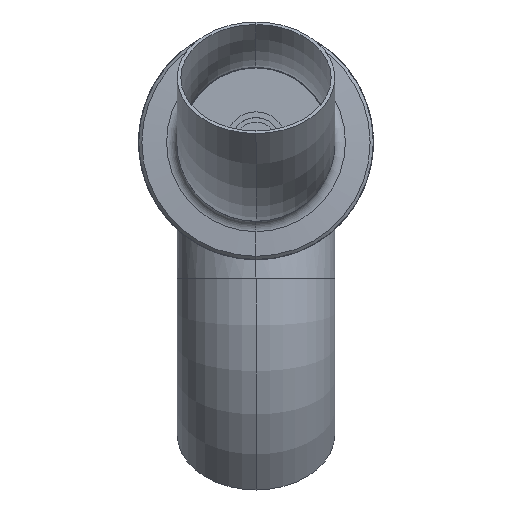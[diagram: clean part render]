
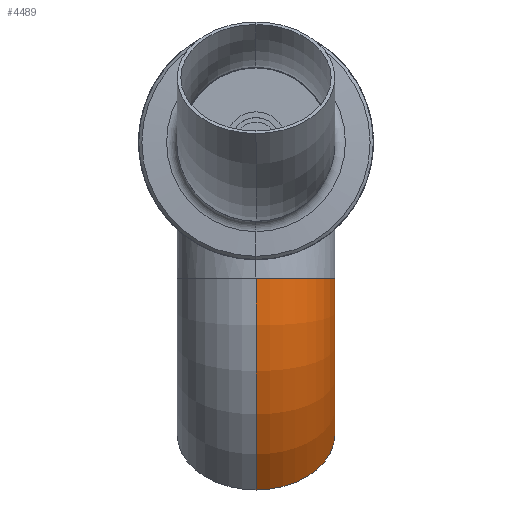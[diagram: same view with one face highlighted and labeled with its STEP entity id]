
A CAD part, front view. The second image highlights one B-rep face of the part: STEP entity #4489.
In plain terms, the highlighted toroidal (fillet/blend) face has major radius 381 mm and minor radius 136.5 mm.
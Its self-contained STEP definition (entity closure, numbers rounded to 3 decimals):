
#138 = VERTEX_POINT ( 'NONE', #19824 ) ;
#414 = CARTESIAN_POINT ( 'NONE',  ( 365.928, -15.072, 0. ) ) ;
#472 = CARTESIAN_POINT ( 'NONE',  ( 0., -136.5, 0. ) ) ;
#2559 = CIRCLE ( 'NONE', #2560, 136.5 ) ;
#2560 = AXIS2_PLACEMENT_3D ( 'NONE', #2561, #2562, #2563 ) ;
#2561 = CARTESIAN_POINT ( 'NONE',  ( 269.408, -111.592, 0. ) ) ;
#2562 = DIRECTION ( 'NONE',  ( 0.707, -0.707, 0. ) ) ;
#2563 = DIRECTION ( 'NONE',  ( 0., 0., -1. ) ) ;
#2882 = CIRCLE ( 'NONE', #2883, 136.5 ) ;
#2883 = AXIS2_PLACEMENT_3D ( 'NONE', #2884, #2885, #2886 ) ;
#2884 = CARTESIAN_POINT ( 'NONE',  ( 0., 0., 0. ) ) ;
#2885 = DIRECTION ( 'NONE',  ( 1., 0., 0. ) ) ;
#2886 = DIRECTION ( 'NONE',  ( 0., 0., -1. ) ) ;
#3351 = EDGE_CURVE ( 'NONE', #138, #10523, #2882, .T. ) ;
#19729 = ORIENTED_EDGE ( 'NONE', *, *, #7101, .T. ) ;
#3388 = ORIENTED_EDGE ( 'NONE', *, *, #3351, .T. ) ;
#19824 = CARTESIAN_POINT ( 'NONE',  ( 0., 136.5, 0. ) ) ;
#4489 = ADVANCED_FACE ( 'NONE', ( #6198 ), #6199, .T. ) ;
#5609 = EDGE_CURVE ( 'NONE', #14714, #10523, #9957, .T. ) ;
#6198 = FACE_OUTER_BOUND ( 'NONE', #15993, .T. ) ;
#6199 = TOROIDAL_SURFACE ( 'NONE', #6200, 381., 136.5 ) ;
#6200 = AXIS2_PLACEMENT_3D ( 'NONE', #6201, #6202, #6203 ) ;
#6201 = CARTESIAN_POINT ( 'NONE',  ( 0., -381., 0. ) ) ;
#6202 = DIRECTION ( 'NONE',  ( 0., 0., 1. ) ) ;
#6203 = DIRECTION ( 'NONE',  ( 1., 0., 0. ) ) ;
#7101 = EDGE_CURVE ( 'NONE', #10378, #138, #11758, .T. ) ;
#8919 = ORIENTED_EDGE ( 'NONE', *, *, #5609, .F. ) ;
#9588 = CARTESIAN_POINT ( 'NONE',  ( 172.888, -208.112, 0. ) ) ;
#9957 = CIRCLE ( 'NONE', #9958, 244.5 ) ;
#9958 = AXIS2_PLACEMENT_3D ( 'NONE', #9959, #9960, #9961 ) ;
#9959 = CARTESIAN_POINT ( 'NONE',  ( 0., -381., 0. ) ) ;
#9960 = DIRECTION ( 'NONE',  ( 0., 0., 1. ) ) ;
#9961 = DIRECTION ( 'NONE',  ( 1., 0., 0. ) ) ;
#10378 = VERTEX_POINT ( 'NONE', #414 ) ;
#10523 = VERTEX_POINT ( 'NONE', #472 ) ;
#11758 = CIRCLE ( 'NONE', #11759, 517.5 ) ;
#11759 = AXIS2_PLACEMENT_3D ( 'NONE', #11760, #11761, #11762 ) ;
#11760 = CARTESIAN_POINT ( 'NONE',  ( 0., -381., 0. ) ) ;
#11761 = DIRECTION ( 'NONE',  ( 0., 0., 1. ) ) ;
#11762 = DIRECTION ( 'NONE',  ( 1., 0., 0. ) ) ;
#12344 = EDGE_CURVE ( 'NONE', #10378, #14714, #2559, .T. ) ;
#12474 = ORIENTED_EDGE ( 'NONE', *, *, #12344, .F. ) ;
#14714 = VERTEX_POINT ( 'NONE', #9588 ) ;
#15993 = EDGE_LOOP ( 'NONE', ( #12474, #19729, #3388, #8919 ) ) ;
